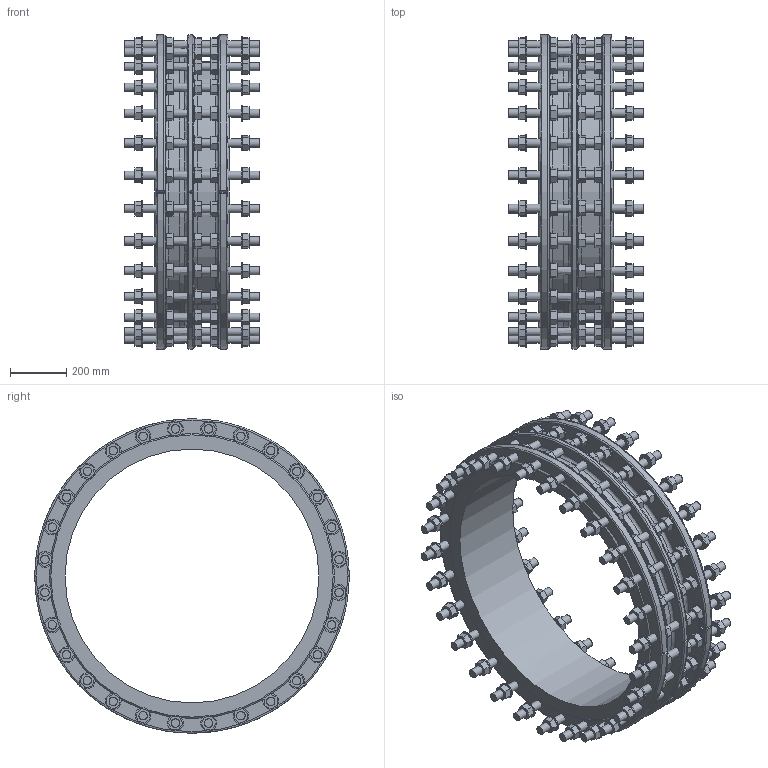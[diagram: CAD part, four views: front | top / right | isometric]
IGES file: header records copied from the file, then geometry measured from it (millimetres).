
Start section: SolidWorks IGES file using analytic representation for surfaces
Global section: file name: \\avksan2\techshare\PBM outline export from Enovia\O_265_911_DN900_0XXXXX01_L=265_REV01.igs; native system: SolidWorks 2022; preprocessor: SolidWorks 2022; author: pbm; date: 241212.092938; units: millimetre
Bounding box: 480 x 1114.97 x 1115 mm (x, y, z)
Surface area: 4668900.2 mm2 (no closed solid volume)
Topology: 0 solids, 0 shells, 1710 faces, 7795 edges, 7471 vertices
Faces by surface type: bspline 1378, revolution 332
